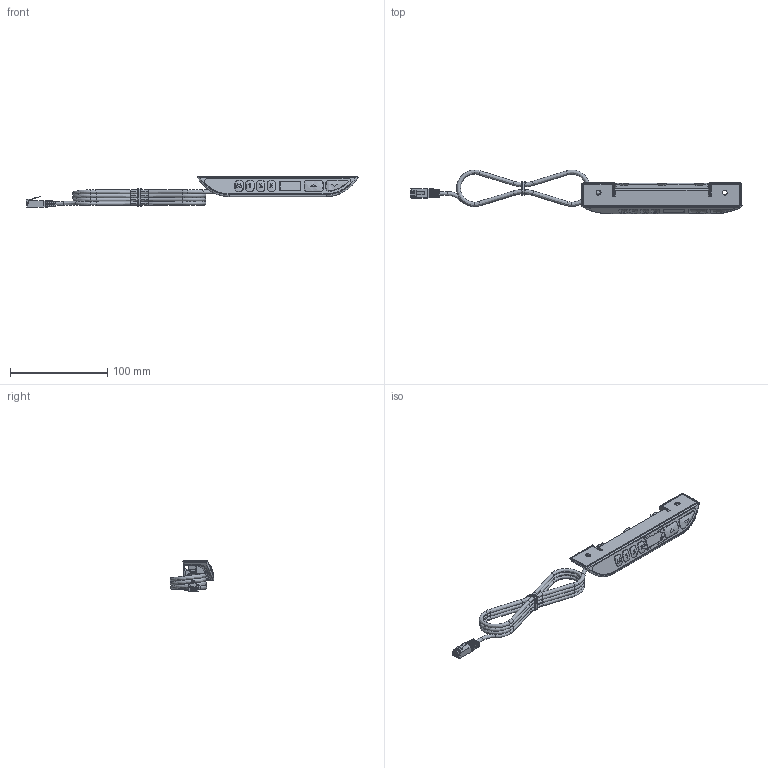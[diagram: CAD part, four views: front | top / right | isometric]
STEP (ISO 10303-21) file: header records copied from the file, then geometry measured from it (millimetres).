
FILE_DESCRIPTION(/* description */ ('Unknown'),/* implementation_level */ '2;1');
FILE_NAME(/* name */ '124.00293_00',/* time_stamp */ '2025-04-14T10:56:14+02:00',/* author */ ('Unknown'),/* organization */ ('Unknown'),/* preprocessor_version */ 'ST-DEVELOPER v20',/* originating_system */ 'Solid Edge',/* authorisation */ 'Unknown');
FILE_SCHEMA (('AUTOMOTIVE_DESIGN {1 0 10303 214 3 1 1}'));
Products named in the file (1): 124.00293
Bounding box: 341.65 x 45.17 x 31.79 mm (x, y, z)
Volume: 55873.9 mm3; surface area: 72417.7 mm2
Topology: 124 solids, 143 shells, 10673 faces, 27970 edges, 17371 vertices
Faces by surface type: plane 5828, cylinder 2875, bspline 1271, torus 413, sphere 239, cone 47
Full cylindrical faces by diameter (mm): 0.088 x1, 0.5 x2, 0.6 x2, 0.66 x1, 0.7 x4, 0.762 x4, 1 x11, 1.8 x3, 3 x3, 3.5 x1, 4 x6, 6.5 x3
Entity records: 403706 total; most frequent: CARTESIAN_POINT 131670, ORIENTED_EDGE 55400, DIRECTION 44840, EDGE_CURVE 27700, LINE 17650, VECTOR 17650, VERTEX_POINT 17375, AXIS2_PLACEMENT_3D 13595
